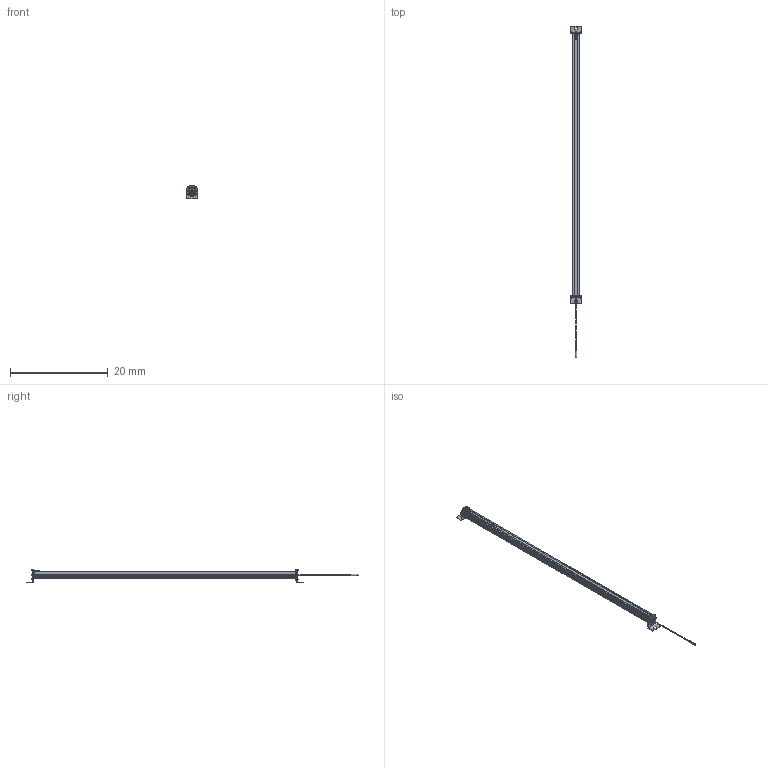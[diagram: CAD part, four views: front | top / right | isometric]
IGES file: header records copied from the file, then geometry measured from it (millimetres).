
Start section:  Autodesk DirectConnect version 7.0.27.0 ---- IGES version 5.3
Global section: file name: C:\ACADFILES\SS_PYLONS\CUSTOMER_FILES\SS-52-PYLON_3D_SMB.iges; native system: Autodesk DirectConnect 7.0.27.0; preprocessor: 7.0.27.0; author: ENGINEERMAIN; organization: Unknown; date: 20150810.125536; units: millimetre
Bounding box: 2.26 x 68.01 x 2.75 mm (x, y, z)
Surface area: 839.2 mm2 (no closed solid volume)
Topology: 0 solids, 0 shells, 754 faces, 3833 edges, 3829 vertices
Faces by surface type: bspline 754
